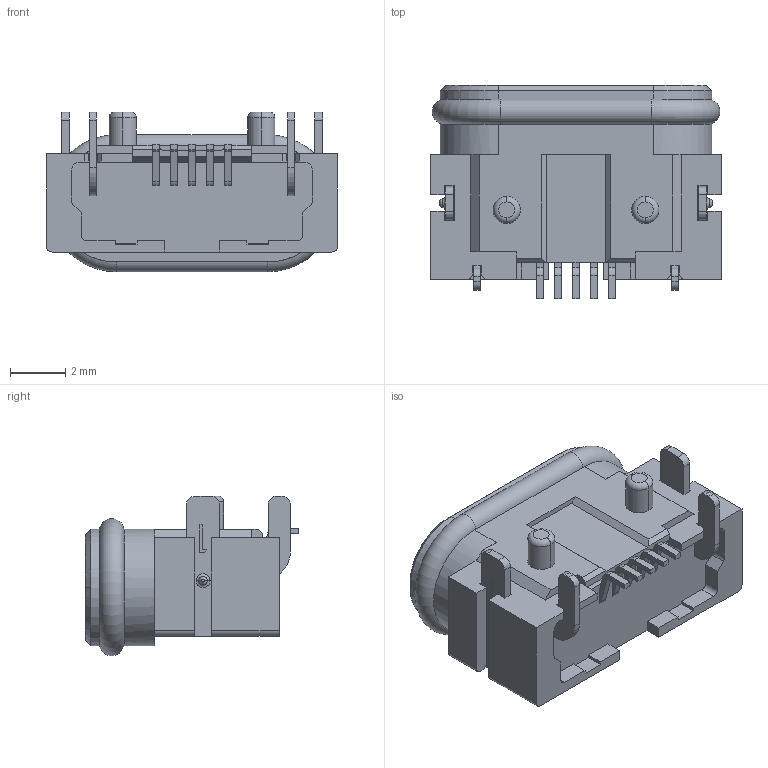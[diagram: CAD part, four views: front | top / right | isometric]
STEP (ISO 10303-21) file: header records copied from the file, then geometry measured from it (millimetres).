
FILE_DESCRIPTION((''),'2;1');
FILE_NAME('MSBR-4','2019-04-18T',('2mj5'),(''),'PRO/ENGINEER BY PARAMETRIC TECHNOLOGY CORPORATION, 2010280','PRO/ENGINEER BY PARAMETRIC TECHNOLOGY CORPORATION, 2010280','');
FILE_SCHEMA(('CONFIG_CONTROL_DESIGN'));
Length unit declared in the file: millimetre
Products named in the file (1): MSBR-4
Bounding box: 10.5 x 7.7 x 5.76 mm (x, y, z)
Volume: 209.5 mm3; surface area: 743.6 mm2
Topology: 1 solids, 3 shells, 1084 faces, 3042 edges, 1958 vertices
Faces by surface type: plane 788, cylinder 221, torus 22, cone 19, extrusion 18, sphere 8, bspline 8
Entity records: 35672 total; most frequent: CARTESIAN_POINT 7446, ORIENTED_EDGE 6072, DIRECTION 5592, EDGE_CURVE 3036, VECTOR 2440, LINE 2422, VERTEX_POINT 1958, AXIS2_PLACEMENT_3D 1576
